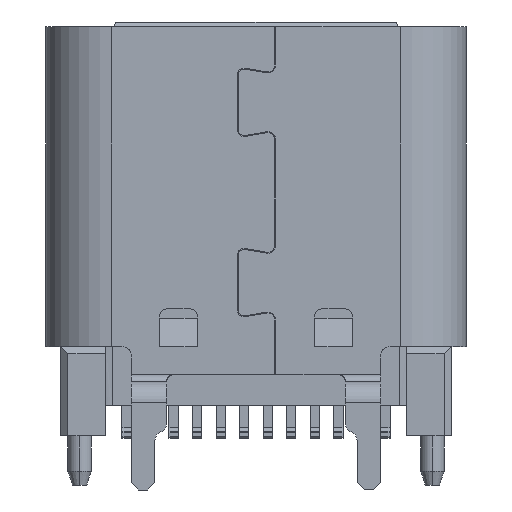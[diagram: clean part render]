
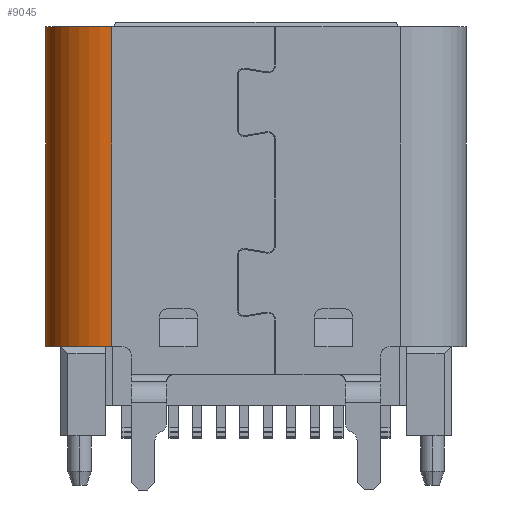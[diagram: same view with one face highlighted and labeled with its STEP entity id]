
A CAD part, front view. The second image highlights one B-rep face of the part: STEP entity #9045.
In plain terms, the highlighted cylindrical face has radius 1.4 mm (diameter 2.8 mm), a partial arc.
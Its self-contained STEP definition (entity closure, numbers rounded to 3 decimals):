
#21 = EDGE_CURVE ( 'NONE', #2368, #50415, #46570, .T. ) ;
#2368 = VERTEX_POINT ( 'NONE', #69473 ) ;
#6911 = EDGE_CURVE ( 'NONE', #70879, #63077, #63517, .T. ) ;
#7010 = DIRECTION ( 'NONE',  ( 0., 0., -1. ) ) ;
#8107 = EDGE_CURVE ( 'NONE', #70879, #50415, #32019, .T. ) ;
#8859 = CARTESIAN_POINT ( 'NONE',  ( -4.211, -0.748, 14.496 ) ) ;
#9045 = ADVANCED_FACE ( 'NONE', ( #34026 ), #9252, .T. ) ;
#9252 = CYLINDRICAL_SURFACE ( 'NONE', #38650, 1.4 ) ;
#10757 = CARTESIAN_POINT ( 'NONE',  ( -4.211, -2.148, 21.443 ) ) ;
#15194 = ORIENTED_EDGE ( 'NONE', *, *, #21, .T. ) ;
#19289 = ORIENTED_EDGE ( 'NONE', *, *, #6911, .T. ) ;
#19385 = EDGE_CURVE ( 'NONE', #63077, #2368, #25103, .T. ) ;
#19668 = CARTESIAN_POINT ( 'NONE',  ( -5.611, -0.748, 21.443 ) ) ;
#21338 = CARTESIAN_POINT ( 'NONE',  ( -4.211, -2.148, 18.018 ) ) ;
#21748 = DIRECTION ( 'NONE',  ( 0., 0., 1. ) ) ;
#24002 = CARTESIAN_POINT ( 'NONE',  ( -4.211, -0.748, 14.643 ) ) ;
#24888 = VECTOR ( 'NONE', #21748, 1000. ) ;
#25103 = CIRCLE ( 'NONE', #66623, 1.4 ) ;
#27916 = DIRECTION ( 'NONE',  ( 0., 0., 1. ) ) ;
#32019 = CIRCLE ( 'NONE', #43714, 1.4 ) ;
#33638 = DIRECTION ( 'NONE',  ( 1., 0., 0. ) ) ;
#34026 = FACE_OUTER_BOUND ( 'NONE', #37025, .T. ) ;
#37025 = EDGE_LOOP ( 'NONE', ( #39616, #19289, #64367, #15194 ) ) ;
#37409 = DIRECTION ( 'NONE',  ( 0., 0., 1. ) ) ;
#38650 = AXIS2_PLACEMENT_3D ( 'NONE', #8859, #27916, #33638 ) ;
#39539 = VECTOR ( 'NONE', #7010, 1000. ) ;
#39616 = ORIENTED_EDGE ( 'NONE', *, *, #8107, .F. ) ;
#43714 = AXIS2_PLACEMENT_3D ( 'NONE', #75036, #57133, #49041 ) ;
#46570 = LINE ( 'NONE', #21338, #24888 ) ;
#49041 = DIRECTION ( 'NONE',  ( -1., 0., 0. ) ) ;
#50415 = VERTEX_POINT ( 'NONE', #10757 ) ;
#56724 = CARTESIAN_POINT ( 'NONE',  ( -5.611, -0.748, 14.643 ) ) ;
#57133 = DIRECTION ( 'NONE',  ( 0., 0., 1. ) ) ;
#62230 = DIRECTION ( 'NONE',  ( 1., 0., 0. ) ) ;
#63077 = VERTEX_POINT ( 'NONE', #56724 ) ;
#63517 = LINE ( 'NONE', #76522, #39539 ) ;
#64367 = ORIENTED_EDGE ( 'NONE', *, *, #19385, .T. ) ;
#66623 = AXIS2_PLACEMENT_3D ( 'NONE', #24002, #37409, #62230 ) ;
#69473 = CARTESIAN_POINT ( 'NONE',  ( -4.211, -2.148, 14.643 ) ) ;
#70879 = VERTEX_POINT ( 'NONE', #19668 ) ;
#75036 = CARTESIAN_POINT ( 'NONE',  ( -4.211, -0.748, 21.443 ) ) ;
#76522 = CARTESIAN_POINT ( 'NONE',  ( -5.611, -0.748, 14.496 ) ) ;
